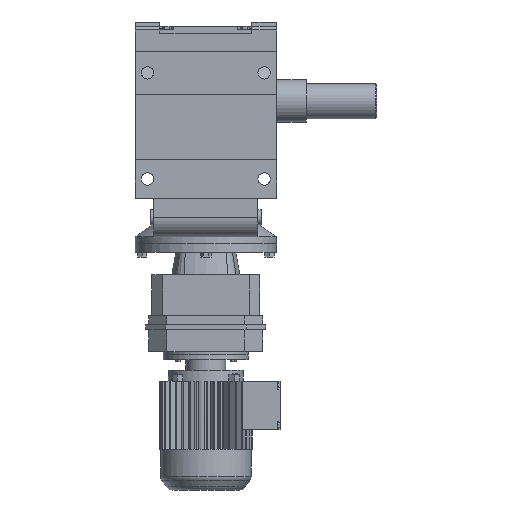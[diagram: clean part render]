
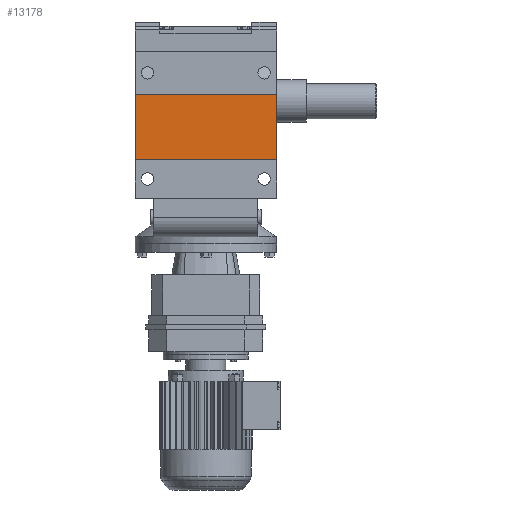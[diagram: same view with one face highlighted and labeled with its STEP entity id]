
A CAD part, front view. The second image highlights one B-rep face of the part: STEP entity #13178.
In plain terms, the highlighted planar face has unit normal (0, -1, 0).
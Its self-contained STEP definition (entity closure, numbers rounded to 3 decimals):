
#5617 = PLANE('',#5618);
#5618 = AXIS2_PLACEMENT_3D('',#5619,#5620,#5621);
#5619 = CARTESIAN_POINT('',(100.,-141.7,80.));
#5620 = DIRECTION('',(1.,0.,0.));
#5621 = DIRECTION('',(0.,0.,-1.));
#6889 = PLANE('',#6890);
#6890 = AXIS2_PLACEMENT_3D('',#6891,#6892,#6893);
#6891 = CARTESIAN_POINT('',(-100.,-141.7,80.));
#6892 = DIRECTION('',(1.,0.,0.));
#6893 = DIRECTION('',(0.,0.,-1.));
#9205 = VERTEX_POINT('',#9206);
#9206 = CARTESIAN_POINT('',(100.,-173.7,9.5));
#9220 = PLANE('',#9221);
#9221 = AXIS2_PLACEMENT_3D('',#9222,#9223,#9224);
#9222 = CARTESIAN_POINT('',(100.,-173.7,9.5));
#9223 = DIRECTION('',(0.,0.,1.));
#9224 = DIRECTION('',(1.,0.,0.));
#9232 = EDGE_CURVE('',#9205,#9233,#9235,.T.);
#9233 = VERTEX_POINT('',#9234);
#9234 = CARTESIAN_POINT('',(100.,-173.7,-82.5));
#9235 = SURFACE_CURVE('',#9236,(#9240,#9247),.PCURVE_S1.);
#9236 = LINE('',#9237,#9238);
#9237 = CARTESIAN_POINT('',(100.,-173.7,9.5));
#9238 = VECTOR('',#9239,1.);
#9239 = DIRECTION('',(0.,0.,-1.));
#9240 = PCURVE('',#5617,#9241);
#9241 = DEFINITIONAL_REPRESENTATION('',(#9242),#9246);
#9242 = LINE('',#9243,#9244);
#9243 = CARTESIAN_POINT('',(70.5,-32.));
#9244 = VECTOR('',#9245,1.);
#9245 = DIRECTION('',(1.,0.));
#9246 = ( GEOMETRIC_REPRESENTATION_CONTEXT(2) 
PARAMETRIC_REPRESENTATION_CONTEXT() REPRESENTATION_CONTEXT('2D SPACE',''
  ) );
#9247 = PCURVE('',#9248,#9253);
#9248 = PLANE('',#9249);
#9249 = AXIS2_PLACEMENT_3D('',#9250,#9251,#9252);
#9250 = CARTESIAN_POINT('',(73.75,-173.7,85.));
#9251 = DIRECTION('',(0.,1.,0.));
#9252 = DIRECTION('',(0.,0.,1.));
#9253 = DEFINITIONAL_REPRESENTATION('',(#9254),#9258);
#9254 = LINE('',#9255,#9256);
#9255 = CARTESIAN_POINT('',(-75.5,26.25));
#9256 = VECTOR('',#9257,1.);
#9257 = DIRECTION('',(-1.,0.));
#9258 = ( GEOMETRIC_REPRESENTATION_CONTEXT(2) 
PARAMETRIC_REPRESENTATION_CONTEXT() REPRESENTATION_CONTEXT('2D SPACE',''
  ) );
#9276 = PLANE('',#9277);
#9277 = AXIS2_PLACEMENT_3D('',#9278,#9279,#9280);
#9278 = CARTESIAN_POINT('',(100.,-173.7,-82.5));
#9279 = DIRECTION('',(0.,0.,-1.));
#9280 = DIRECTION('',(-1.,0.,0.));
#11998 = VERTEX_POINT('',#11999);
#11999 = CARTESIAN_POINT('',(-100.,-173.7,-82.5));
#12020 = EDGE_CURVE('',#12021,#11998,#12023,.T.);
#12021 = VERTEX_POINT('',#12022);
#12022 = CARTESIAN_POINT('',(-100.,-173.7,9.5));
#12023 = SURFACE_CURVE('',#12024,(#12028,#12035),.PCURVE_S1.);
#12024 = LINE('',#12025,#12026);
#12025 = CARTESIAN_POINT('',(-100.,-173.7,9.5));
#12026 = VECTOR('',#12027,1.);
#12027 = DIRECTION('',(0.,0.,-1.));
#12028 = PCURVE('',#6889,#12029);
#12029 = DEFINITIONAL_REPRESENTATION('',(#12030),#12034);
#12030 = LINE('',#12031,#12032);
#12031 = CARTESIAN_POINT('',(70.5,-32.));
#12032 = VECTOR('',#12033,1.);
#12033 = DIRECTION('',(1.,0.));
#12034 = ( GEOMETRIC_REPRESENTATION_CONTEXT(2) 
PARAMETRIC_REPRESENTATION_CONTEXT() REPRESENTATION_CONTEXT('2D SPACE',''
  ) );
#12035 = PCURVE('',#9248,#12036);
#12036 = DEFINITIONAL_REPRESENTATION('',(#12037),#12041);
#12037 = LINE('',#12038,#12039);
#12038 = CARTESIAN_POINT('',(-75.5,-173.75));
#12039 = VECTOR('',#12040,1.);
#12040 = DIRECTION('',(-1.,0.));
#12041 = ( GEOMETRIC_REPRESENTATION_CONTEXT(2) 
PARAMETRIC_REPRESENTATION_CONTEXT() REPRESENTATION_CONTEXT('2D SPACE',''
  ) );
#13178 = ADVANCED_FACE('',(#13179),#9248,.F.);
#13179 = FACE_BOUND('',#13180,.T.);
#13180 = EDGE_LOOP('',(#13181,#13202,#13203,#13224));
#13181 = ORIENTED_EDGE('',*,*,#13182,.T.);
#13182 = EDGE_CURVE('',#9205,#12021,#13183,.T.);
#13183 = SURFACE_CURVE('',#13184,(#13188,#13195),.PCURVE_S1.);
#13184 = LINE('',#13185,#13186);
#13185 = CARTESIAN_POINT('',(100.,-173.7,9.5));
#13186 = VECTOR('',#13187,1.);
#13187 = DIRECTION('',(-1.,0.,0.));
#13188 = PCURVE('',#9248,#13189);
#13189 = DEFINITIONAL_REPRESENTATION('',(#13190),#13194);
#13190 = LINE('',#13191,#13192);
#13191 = CARTESIAN_POINT('',(-75.5,26.25));
#13192 = VECTOR('',#13193,1.);
#13193 = DIRECTION('',(0.,-1.));
#13194 = ( GEOMETRIC_REPRESENTATION_CONTEXT(2) 
PARAMETRIC_REPRESENTATION_CONTEXT() REPRESENTATION_CONTEXT('2D SPACE',''
  ) );
#13195 = PCURVE('',#9220,#13196);
#13196 = DEFINITIONAL_REPRESENTATION('',(#13197),#13201);
#13197 = LINE('',#13198,#13199);
#13198 = CARTESIAN_POINT('',(0.,0.));
#13199 = VECTOR('',#13200,1.);
#13200 = DIRECTION('',(-1.,0.));
#13201 = ( GEOMETRIC_REPRESENTATION_CONTEXT(2) 
PARAMETRIC_REPRESENTATION_CONTEXT() REPRESENTATION_CONTEXT('2D SPACE',''
  ) );
#13202 = ORIENTED_EDGE('',*,*,#12020,.T.);
#13203 = ORIENTED_EDGE('',*,*,#13204,.F.);
#13204 = EDGE_CURVE('',#9233,#11998,#13205,.T.);
#13205 = SURFACE_CURVE('',#13206,(#13210,#13217),.PCURVE_S1.);
#13206 = LINE('',#13207,#13208);
#13207 = CARTESIAN_POINT('',(100.,-173.7,-82.5));
#13208 = VECTOR('',#13209,1.);
#13209 = DIRECTION('',(-1.,0.,0.));
#13210 = PCURVE('',#9248,#13211);
#13211 = DEFINITIONAL_REPRESENTATION('',(#13212),#13216);
#13212 = LINE('',#13213,#13214);
#13213 = CARTESIAN_POINT('',(-167.5,26.25));
#13214 = VECTOR('',#13215,1.);
#13215 = DIRECTION('',(0.,-1.));
#13216 = ( GEOMETRIC_REPRESENTATION_CONTEXT(2) 
PARAMETRIC_REPRESENTATION_CONTEXT() REPRESENTATION_CONTEXT('2D SPACE',''
  ) );
#13217 = PCURVE('',#9276,#13218);
#13218 = DEFINITIONAL_REPRESENTATION('',(#13219),#13223);
#13219 = LINE('',#13220,#13221);
#13220 = CARTESIAN_POINT('',(0.,0.));
#13221 = VECTOR('',#13222,1.);
#13222 = DIRECTION('',(1.,0.));
#13223 = ( GEOMETRIC_REPRESENTATION_CONTEXT(2) 
PARAMETRIC_REPRESENTATION_CONTEXT() REPRESENTATION_CONTEXT('2D SPACE',''
  ) );
#13224 = ORIENTED_EDGE('',*,*,#9232,.F.);
